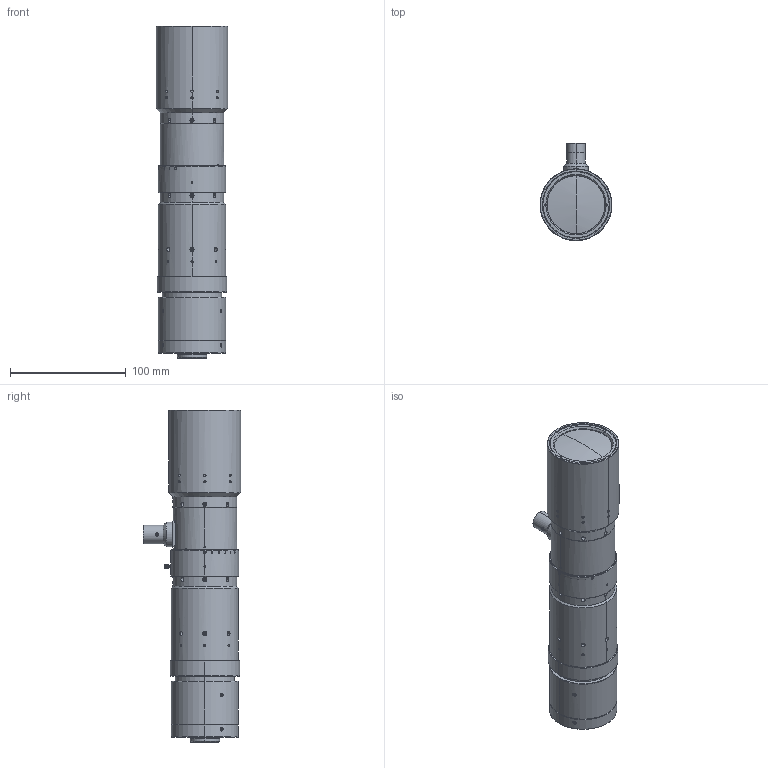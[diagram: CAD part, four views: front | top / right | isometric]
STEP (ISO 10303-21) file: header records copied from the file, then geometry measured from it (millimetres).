
FILE_DESCRIPTION (( 'STEP AP214' ), '1' );
FILE_NAME ('MML0685-ZR150DVI-20C.STEP', '2026-06-29T06:00:57', ( '' ), ( '' ), 'SwSTEP 2.0', 'SolidWorks 2025', '' );
FILE_SCHEMA (( 'AUTOMOTIVE_DESIGN' ));
Length unit declared in the file: millimetre
Products named in the file (1): MML0685-ZR150DVI-20C
Bounding box: 62 x 84.18 x 286.49 mm (x, y, z)
Volume: 655318.1 mm3; surface area: 78835.4 mm2
Topology: 1 solids, 2 shells, 1025 faces, 2415 edges, 1509 vertices
Faces by surface type: cylinder 402, plane 284, cone 271, bspline 56, torus 6, sphere 6
Entity records: 40752 total; most frequent: CARTESIAN_POINT 18353, ORIENTED_EDGE 4822, DIRECTION 4277, EDGE_CURVE 2411, AXIS2_PLACEMENT_3D 1673, VERTEX_POINT 1509, EDGE_LOOP 1148, FACE_OUTER_BOUND 1025
